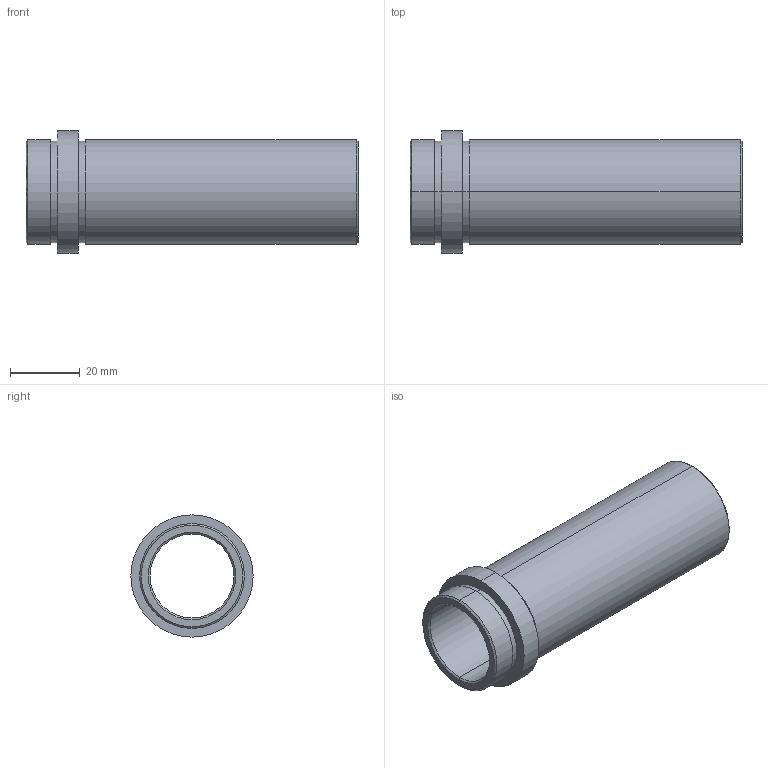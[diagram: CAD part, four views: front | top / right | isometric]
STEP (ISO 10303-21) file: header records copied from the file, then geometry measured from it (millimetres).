
FILE_DESCRIPTION( ( 'STEP AP203' ), '1' );
FILE_NAME( 'D:/Delta 3 D/D21/D21 - 24x86.step', '2002-12-31T22:47:45', ( ' ' ), ( ' ' ), 'XStep 1.0', ' ', ' ' );
FILE_SCHEMA( ( 'CONFIG_CONTROL_DESIGN' ) );
Length unit declared in the file: metre
Products named in the file (1): 1
Bounding box: 95 x 35 x 35 mm (x, y, z)
Volume: 25478.3 mm3; surface area: 17303.5 mm2
Topology: 1 solids, 1 shells, 26 faces, 52 edges, 32 vertices
Faces by surface type: revolution 20, bspline 6
Entity records: 773 total; most frequent: CARTESIAN_POINT 169, DIRECTION 106, ORIENTED_EDGE 104, EDGE_CURVE 52, AXIS2_PLACEMENT_3D 33, EDGE_LOOP 32, VERTEX_POINT 32, CIRCLE 32
